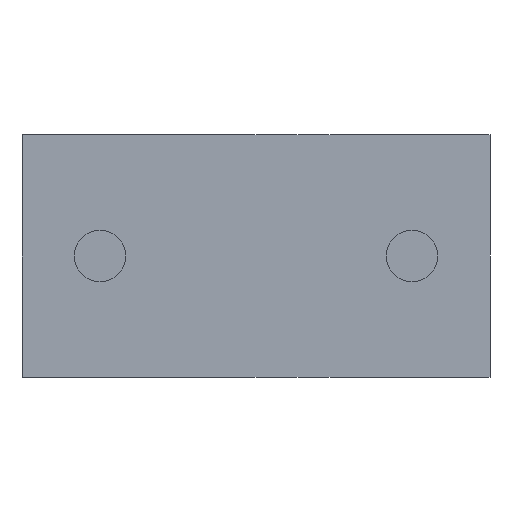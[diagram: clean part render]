
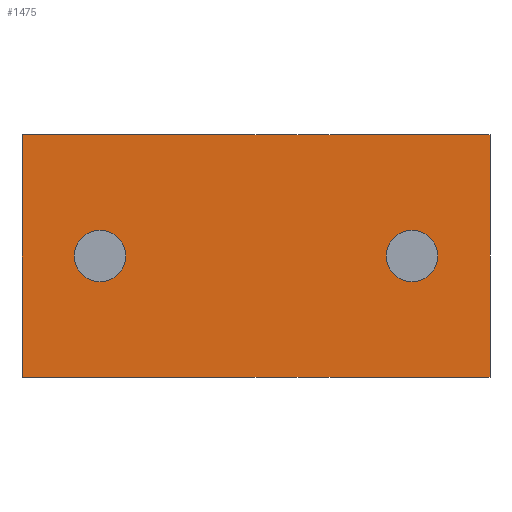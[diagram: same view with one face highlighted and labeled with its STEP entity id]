
A CAD part, front view. The second image highlights one B-rep face of the part: STEP entity #1475.
In plain terms, the highlighted planar face has unit normal (0, -1, 0).
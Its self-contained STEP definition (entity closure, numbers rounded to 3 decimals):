
#92=FACE_BOUND('',#265,.T.);
#93=FACE_BOUND('',#266,.T.);
#121=PLANE('',#1688);
#175=FACE_OUTER_BOUND('',#264,.T.);
#264=EDGE_LOOP('',(#1082,#1083,#1084,#1085));
#265=EDGE_LOOP('',(#1086,#1087));
#266=EDGE_LOOP('',(#1088,#1089));
#366=LINE('',#2426,#446);
#373=LINE('',#2442,#453);
#382=LINE('',#2477,#462);
#383=LINE('',#2479,#463);
#446=VECTOR('',#1907,10.);
#453=VECTOR('',#1920,10.);
#462=VECTOR('',#1963,10.);
#463=VECTOR('',#1966,10.);
#518=CIRCLE('',#1635,4.188);
#519=CIRCLE('',#1636,4.188);
#522=CIRCLE('',#1641,4.188);
#523=CIRCLE('',#1642,4.188);
#606=VERTEX_POINT('',#2355);
#607=VERTEX_POINT('',#2356);
#610=VERTEX_POINT('',#2366);
#611=VERTEX_POINT('',#2367);
#633=VERTEX_POINT('',#2423);
#634=VERTEX_POINT('',#2425);
#639=VERTEX_POINT('',#2439);
#640=VERTEX_POINT('',#2441);
#753=EDGE_CURVE('',#606,#607,#518,.T.);
#754=EDGE_CURVE('',#607,#606,#519,.T.);
#758=EDGE_CURVE('',#610,#611,#522,.T.);
#759=EDGE_CURVE('',#611,#610,#523,.T.);
#786=EDGE_CURVE('',#634,#633,#366,.T.);
#794=EDGE_CURVE('',#640,#639,#373,.T.);
#813=EDGE_CURVE('',#633,#640,#382,.T.);
#814=EDGE_CURVE('',#639,#634,#383,.T.);
#1082=ORIENTED_EDGE('',*,*,#813,.T.);
#1083=ORIENTED_EDGE('',*,*,#794,.T.);
#1084=ORIENTED_EDGE('',*,*,#814,.T.);
#1085=ORIENTED_EDGE('',*,*,#786,.T.);
#1086=ORIENTED_EDGE('',*,*,#753,.T.);
#1087=ORIENTED_EDGE('',*,*,#754,.T.);
#1088=ORIENTED_EDGE('',*,*,#758,.T.);
#1089=ORIENTED_EDGE('',*,*,#759,.T.);
#1475=ADVANCED_FACE('',(#175,#92,#93),#121,.F.);
#1635=AXIS2_PLACEMENT_3D('',#2357,#1833,#1834);
#1636=AXIS2_PLACEMENT_3D('',#2358,#1835,#1836);
#1641=AXIS2_PLACEMENT_3D('',#2368,#1846,#1847);
#1642=AXIS2_PLACEMENT_3D('',#2369,#1848,#1849);
#1688=AXIS2_PLACEMENT_3D('',#2480,#1967,#1968);
#1833=DIRECTION('center_axis',(0.,1.,0.));
#1834=DIRECTION('ref_axis',(-1.,0.,0.));
#1835=DIRECTION('center_axis',(0.,1.,0.));
#1836=DIRECTION('ref_axis',(-1.,0.,0.));
#1846=DIRECTION('center_axis',(0.,1.,0.));
#1847=DIRECTION('ref_axis',(-1.,0.,0.));
#1848=DIRECTION('center_axis',(0.,1.,0.));
#1849=DIRECTION('ref_axis',(-1.,0.,0.));
#1907=DIRECTION('',(1.,0.,0.));
#1920=DIRECTION('',(-1.,0.,0.));
#1963=DIRECTION('',(0.,0.,1.));
#1966=DIRECTION('',(0.,0.,-1.));
#1967=DIRECTION('center_axis',(0.,1.,0.));
#1968=DIRECTION('ref_axis',(0.,0.,1.));
#2355=CARTESIAN_POINT('',(-29.588,-36.5,0.));
#2356=CARTESIAN_POINT('',(-21.212,-36.5,0.));
#2357=CARTESIAN_POINT('Origin',(-25.4,-36.5,0.));
#2358=CARTESIAN_POINT('Origin',(-25.4,-36.5,0.));
#2366=CARTESIAN_POINT('',(21.212,-36.5,0.));
#2367=CARTESIAN_POINT('',(29.588,-36.5,0.));
#2368=CARTESIAN_POINT('Origin',(25.4,-36.5,0.));
#2369=CARTESIAN_POINT('Origin',(25.4,-36.5,0.));
#2423=CARTESIAN_POINT('',(38.1,-36.5,-19.75));
#2425=CARTESIAN_POINT('',(-38.1,-36.5,-19.75));
#2426=CARTESIAN_POINT('',(19.05,-36.5,-19.75));
#2439=CARTESIAN_POINT('',(-38.1,-36.5,19.75));
#2441=CARTESIAN_POINT('',(38.1,-36.5,19.75));
#2442=CARTESIAN_POINT('',(-19.05,-36.5,19.75));
#2477=CARTESIAN_POINT('',(38.1,-36.5,9.875));
#2479=CARTESIAN_POINT('',(-38.1,-36.5,-9.875));
#2480=CARTESIAN_POINT('Origin',(0.,-36.5,0.));
